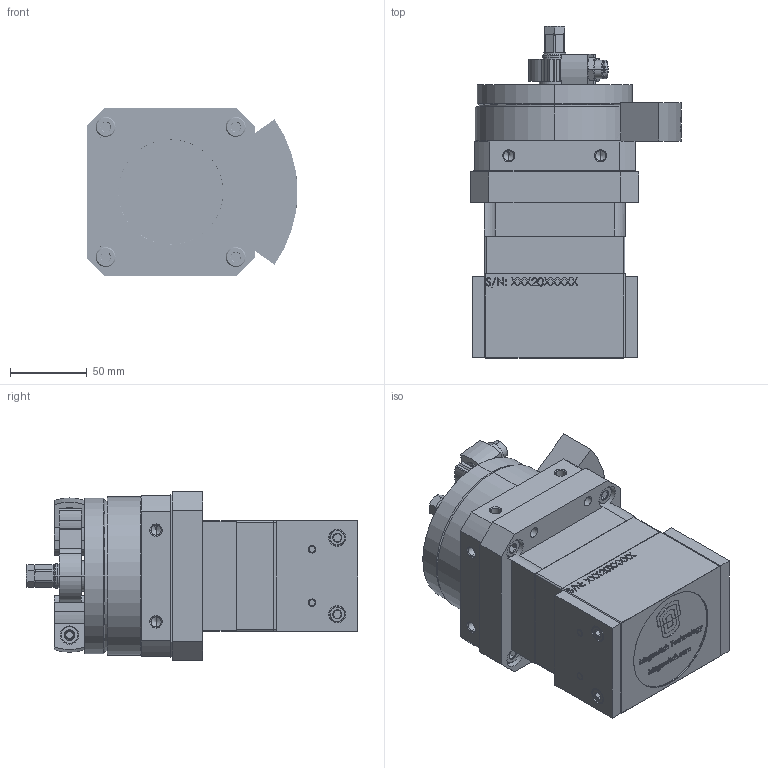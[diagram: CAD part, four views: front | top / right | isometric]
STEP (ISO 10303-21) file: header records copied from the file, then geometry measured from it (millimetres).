
FILE_DESCRIPTION (( 'STEP AP214' ), '1' );
FILE_NAME ('8140320_CFM.STEP', '2024-07-31T19:10:30', ( '' ), ( '' ), 'SwSTEP 2.0', 'SolidWorks 2022', '' );
FILE_SCHEMA (( 'AUTOMOTIVE_DESIGN' ));
Length unit declared in the file: millimetre
Products named in the file (1): 8140320_CFM
Bounding box: 137.82 x 216.8 x 110 mm (x, y, z)
Volume: 1555900.1 mm3; surface area: 206008.1 mm2
Topology: 28 solids, 28 shells, 3063 faces, 8111 edges, 5277 vertices
Faces by surface type: plane 1172, cylinder 844, bspline 674, cone 363, torus 10
Entity records: 171691 total; most frequent: CARTESIAN_POINT 71887, ORIENTED_EDGE 16142, DIRECTION 11218, EDGE_CURVE 8071, VERTEX_POINT 5277, VECTOR 4088, LINE 4088, AXIS2_PLACEMENT_3D 3565
